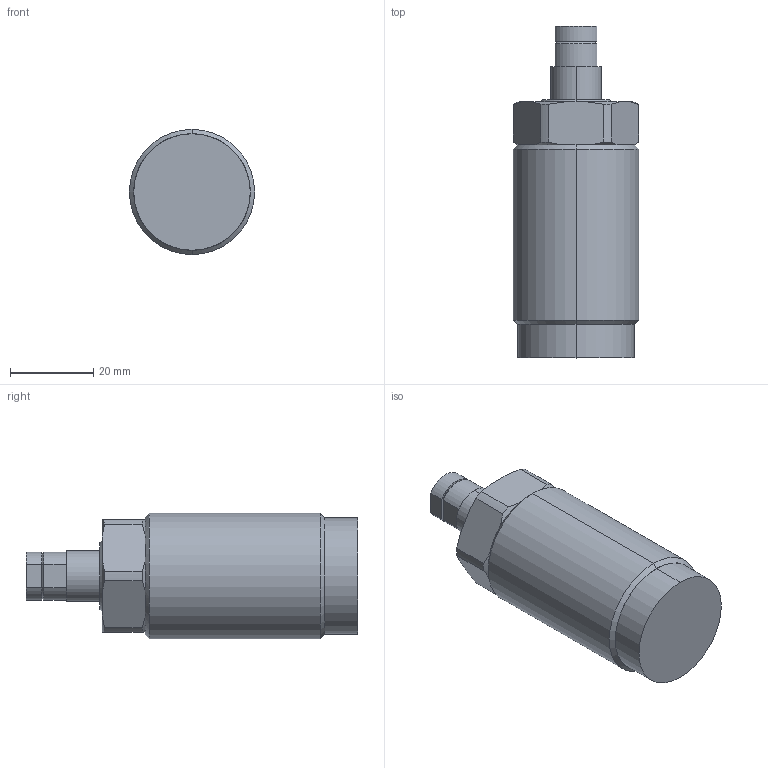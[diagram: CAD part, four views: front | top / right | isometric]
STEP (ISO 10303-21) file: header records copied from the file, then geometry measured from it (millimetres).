
FILE_DESCRIPTION (( 'STEP AP214' ), '1' );
FILE_NAME ('LSP-12A.STEP', '2021-10-18T08:46:29', ( '' ), ( '' ), 'SwSTEP 2.0', 'SolidWorks 2016', '' );
FILE_SCHEMA (( 'AUTOMOTIVE_DESIGN' ));
Length unit declared in the file: millimetre
Products named in the file (1): LSP-12A
Bounding box: 30 x 79.5 x 30 mm (x, y, z)
Volume: 43068 mm3; surface area: 8080.8 mm2
Topology: 1 solids, 2 shells, 69 faces, 160 edges, 98 vertices
Faces by surface type: plane 26, cone 23, cylinder 20
Entity records: 2061 total; most frequent: CARTESIAN_POINT 422, DIRECTION 339, ORIENTED_EDGE 316, EDGE_CURVE 158, AXIS2_PLACEMENT_3D 139, VERTEX_POINT 98, EDGE_LOOP 74, FACE_OUTER_BOUND 69
